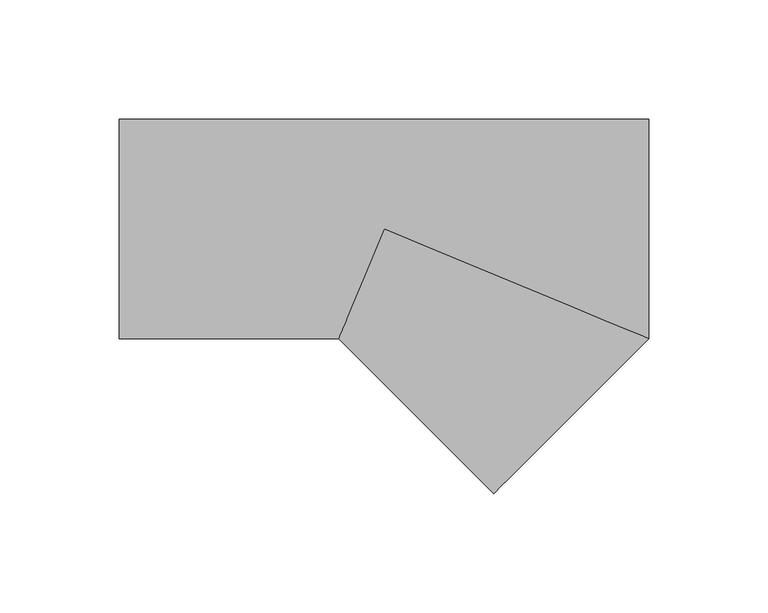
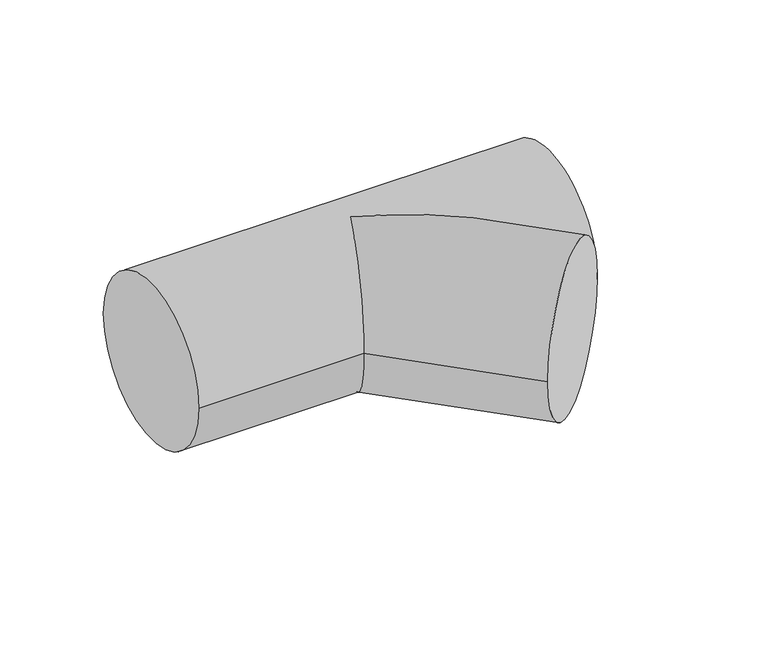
"""IFC4 building model written with IfcOpenShell, lengths in millimetres: pipe fitting geometry, M_Te - Genérica : Estándar."""

import ifcopenshell
import ifcopenshell.guid

model = None  # the IFC model being written
_history = None  # IfcOwnerHistory: only IFC2X3 demands one
_inside = {}  # id of a spatial element -> (the spatial element, [elements in it])
_under = {}  # id of a project, library or spatial element -> (it, [spatial elements below it])
_declared = {}  # id of a project -> (the project, [libraries it declares])
_typed = {}  # id of a type object -> (the type object, [elements of that type])
_made_of = {}  # id of a material, layer set ... -> (it, [elements and type objects made of it])


def new_model(schema):
    """Start an empty IFC model of exactly this schema.

    Asked for "IFC4X3", IfcOpenShell would pick the latest addendum, in which some entities
    have other attributes; the version numbers below select the first issue.
    IFC2X3 requires an IfcOwnerHistory on every rooted entity: one is made here for all.
    """
    global model, _history
    if schema == "IFC4X3":
        model = ifcopenshell.file(schema_version=(4, 3, 0, 0))
    else:
        model = ifcopenshell.file(schema=schema)
    _inside.clear()
    _under.clear()
    _declared.clear()
    _typed.clear()
    _made_of.clear()
    _history = None
    if model.schema == "IFC2X3":
        org = make("IfcOrganization", Name="unknown")
        user = make(
            "IfcPersonAndOrganization",
            ThePerson=make("IfcPerson", FamilyName="unknown"),
            TheOrganization=org,
        )
        app = make(
            "IfcApplication",
            ApplicationDeveloper=org,
            Version="unknown",
            ApplicationFullName="unknown",
            ApplicationIdentifier="unknown",
        )
        _history = make(
            "IfcOwnerHistory",
            OwningUser=user,
            OwningApplication=app,
            ChangeAction="ADDED",
            CreationDate=0,
        )
    return model


def make(cls, **values):
    """One entity of the class cls with the attributes given. An attribute that is None is left unset."""
    return model.create_entity(
        cls, **{name: value for name, value in values.items() if value is not None}
    )


def rooted(cls, **values):
    """An entity with a GlobalId (a new one), such as an element, a storey or a relation."""
    return make(cls, GlobalId=ifcopenshell.guid.new(), OwnerHistory=_history, **values)


def si_unit(unit_type, name, prefix=None):
    """IfcSIUnit, for example si_unit("LENGTHUNIT", "METRE", prefix="MILLI")."""
    return make("IfcSIUnit", UnitType=unit_type, Prefix=prefix, Name=name)


def assignment(units):
    """IfcUnitAssignment: the units of a project."""
    return None if units is None else make("IfcUnitAssignment", Units=units)


def point(xyz):
    """IfcCartesianPoint."""
    return None if xyz is None else make("IfcCartesianPoint", Coordinates=xyz)


def direction(xyz):
    """IfcDirection."""
    return None if xyz is None else make("IfcDirection", DirectionRatios=xyz)


def frame(location, z_axis=None, x_axis=None):
    """IfcAxis2Placement3D, a coordinate frame: its origin and axes. An axis left out is left unset."""
    return make(
        "IfcAxis2Placement3D",
        Location=point(location),
        Axis=direction(z_axis),
        RefDirection=direction(x_axis),
    )


def origin():
    """The frame at (0, 0, 0) with its axes left unset."""
    return frame((0.0, 0.0, 0.0))


def place(relative_to, where):
    """IfcLocalPlacement: puts the frame where relative to a parent placement (None: the world)."""
    return make(
        "IfcLocalPlacement", PlacementRelTo=relative_to, RelativePlacement=where
    )


def context(
    kind, dimensions, precision=None, world=None, true_north=None, identifier=None
):
    """IfcGeometricRepresentationContext, for example the 3D "Model" context."""
    return make(
        "IfcGeometricRepresentationContext",
        ContextIdentifier=identifier,
        ContextType=kind,
        CoordinateSpaceDimension=dimensions,
        Precision=precision,
        WorldCoordinateSystem=world,
        TrueNorth=true_north,
    )


def project(units=None, contexts=None):
    """IfcProject with its units and contexts."""
    return rooted(
        "IfcProject",
        Name="project",
        RepresentationContexts=contexts,
        UnitsInContext=assignment(units),
    )


def spatial(cls, under=None, at=None, **own):
    """A site, building, storey or space (cls), placed at a placement, below another one or the project."""
    s = rooted(cls, ObjectPlacement=at, **own)
    if under is not None:
        _under.setdefault(under.id(), (under, []))[1].append(s)
    return s


def circle_curve(where, radius):
    """IfcCircle in the frame where."""
    return make("IfcCircle", Position=where, Radius=radius)


def ellipse_curve(where, semi_axis1, semi_axis2):
    """IfcEllipse in the frame where."""
    return make(
        "IfcEllipse", Position=where, SemiAxis1=semi_axis1, SemiAxis2=semi_axis2
    )


def shape(context_of_items, identifier, shape_type, items):
    """IfcShapeRepresentation: the items that make up one representation, for example the "Body"."""
    return make(
        "IfcShapeRepresentation",
        ContextOfItems=context_of_items,
        RepresentationIdentifier=identifier,
        RepresentationType=shape_type,
        Items=items,
    )


def source(mapping_origin, context_of_items, identifier, shape_type, items):
    """IfcRepresentationMap: a shape defined once, which mapped items show again and again."""
    return make(
        "IfcRepresentationMap",
        MappingOrigin=mapping_origin,
        MappedRepresentation=shape(context_of_items, identifier, shape_type, items),
    )


def transform(
    local_origin,
    x_axis=None,
    y_axis=None,
    z_axis=None,
    scale=None,
    scale2=None,
    scale3=None,
    uniform=True,
):
    """IfcCartesianTransformationOperator3D, or its non-uniform kind. x_axis, y_axis, z_axis: its Axis1, 2, 3."""
    if uniform:
        return make(
            "IfcCartesianTransformationOperator3D",
            Axis1=direction(x_axis),
            Axis2=direction(y_axis),
            LocalOrigin=point(local_origin),
            Scale=scale,
            Axis3=direction(z_axis),
        )
    return make(
        "IfcCartesianTransformationOperator3DnonUniform",
        Axis1=direction(x_axis),
        Axis2=direction(y_axis),
        LocalOrigin=point(local_origin),
        Scale=scale,
        Axis3=direction(z_axis),
        Scale2=scale2,
        Scale3=scale3,
    )


def mapped(mapping_source, mapping_target):
    """IfcMappedItem: shows the shape of a source again, moved by a transform."""
    return make(
        "IfcMappedItem", MappingSource=mapping_source, MappingTarget=mapping_target
    )


def made_of(thing, what):
    """Note that an element or type object is made of a material, layer set ...; save() writes the relation."""
    if what is not None:
        _made_of.setdefault(what.id(), (what, []))[1].append(thing)
    return thing


def element(
    cls,
    number,
    at=None,
    inside=None,
    cuts=None,
    type_object=None,
    material=None,
    context=None,
    identifier="Body",
    shape_type=None,
    held_by="IfcProductDefinitionShape",
    body=None,
    shapes=None,
    **own,
):
    """One element of the class cls, such as IfcWall. Its Tag is "e" and its number.

    at: its placement. inside: the storey or other place that contains it. cuts: it is an
    opening in that element (IfcRelVoidsElement). A single representation is given by context,
    identifier, shape_type and body (its items); several are given by shapes. held_by: the class
    of the entity that holds the representations. save() writes the other relations.
    """
    e = rooted(cls, Tag="e%d" % number, ObjectPlacement=at, **own)
    if body is not None:
        shapes = [shape(context, identifier, shape_type, body)]
    if shapes is not None:
        e.Representation = make(held_by, Representations=shapes)
    if inside is not None:
        _inside.setdefault(inside.id(), (inside, []))[1].append(e)
    if cuts is not None:
        rooted(
            "IfcRelVoidsElement", RelatingBuildingElement=cuts, RelatedOpeningElement=e
        )
    if type_object is not None:
        _typed.setdefault(type_object.id(), (type_object, []))[1].append(e)
    return made_of(e, material)


def aggregate(whole, parts):
    """IfcRelAggregates: a whole, such as a stair, and the parts it consists of."""
    return rooted("IfcRelAggregates", RelatingObject=whole, RelatedObjects=parts)


def save(model, path):
    """Write the relations noted so far, then the file.

    IfcRelAggregates (storeys below a building ...), IfcRelContainedInSpatialStructure (elements
    in a storey), IfcRelDefinesByType, IfcRelAssociatesMaterial and IfcRelDeclares: one each for
    every whole, place, type object, material and project.
    """
    for whole, parts in _under.values():
        aggregate(whole, parts)
    for where, things in _inside.values():
        rooted(
            "IfcRelContainedInSpatialStructure",
            RelatedElements=things,
            RelatingStructure=where,
        )
    for kind, things in _typed.values():
        rooted("IfcRelDefinesByType", RelatedObjects=things, RelatingType=kind)
    for what, things in _made_of.values():
        rooted("IfcRelAssociatesMaterial", RelatedObjects=things, RelatingMaterial=what)
    for by, libraries in _declared.values():
        rooted("IfcRelDeclares", RelatingContext=by, RelatedDefinitions=libraries)
    model.write(path)


def plane_surface(at):
    """IfcPlane: the flat surface through the origin of the frame at, square to its z axis."""
    return make("IfcPlane", Position=at)


def cylinder_surface(at, radius):
    """IfcCylindricalSurface: all points at the distance radius from the z axis of the frame at."""
    return make("IfcCylindricalSurface", Position=at, Radius=radius)


def advanced_brep(points, edges, surfaces, faces):
    """IfcAdvancedBrep: a solid bounded by faces that lie on surfaces and meet in shared edges.

    An edge is (start, end): straight between two places in points (the first is 0);
    or (start, end, curve); or (start, end, curve, False) where it runs against its curve.
    A face is (place in surfaces, loops), or (place, loops, False) where it looks against
    its surface's normal. A loop lists edges by number (the first is 1), with a minus sign
    where the edge is run from its end to its start. The first loop is the outer one.
    """
    corners = [point(p) for p in points]
    vertices = [make("IfcVertexPoint", VertexGeometry=c) for c in corners]
    made = []
    for start, end, *more in edges:
        made.append(
            make(
                "IfcEdgeCurve",
                EdgeStart=vertices[start],
                EdgeEnd=vertices[end],
                EdgeGeometry=more[0] if more else make("IfcPolyline", Points=[corners[start], corners[end]]),
                SameSense=more[1] if len(more) > 1 else True,
            )
        )
    hull = []
    for where, loops, *sense in faces:
        bounds = []
        for j, loop in enumerate(loops):
            ring = [make("IfcOrientedEdge", EdgeElement=made[abs(k) - 1], Orientation=k > 0) for k in loop]
            bounds.append(
                make(
                    "IfcFaceOuterBound" if j == 0 else "IfcFaceBound",
                    Bound=make("IfcEdgeLoop", EdgeList=ring),
                    Orientation=True,
                )
            )
        hull.append(make("IfcAdvancedFace", Bounds=bounds, FaceSurface=surfaces[where], SameSense=sense[0] if sense else True))
    return make("IfcAdvancedBrep", Outer=make("IfcClosedShell", CfsFaces=hull))


def pipe_fitting_872c9969(model_context):
    return source(origin(), model_context, "Body", "AdvancedBrep", [
        advanced_brep(
        [(-111.1508304, -46.0375, 0.0), (-111.1508304, 46.0375, 0.0), (111.1508304, -46.0375, 0.0), (111.1508304, 46.0375, 0.0), (-19.0682463, -46.0375, 0.0), (0.0, 0.0, 46.0375), (0.0, 0.0, -46.0375), (46.0466548, -111.1470381, 0.0)],
        [
            (0, 1, circle_curve(frame((-111.1508304, 0.0, 0.0), z_axis=(-1.0, 0.0, 0.0), x_axis=(0.0, 1.0, 0.0)), 46.0375)),
            (1, 0, circle_curve(frame((-111.1508304, 0.0, 0.0), z_axis=(-1.0, 0.0, 0.0), x_axis=(0.0, 1.0, 0.0)), 46.0375)),
            (2, 3, circle_curve(frame((111.1508304, 0.0, 0.0), z_axis=(1.0, 0.0, 0.0), x_axis=(0.0, 1.0, 0.0)), 46.0375)),
            (3, 2, circle_curve(frame((111.1508304, 0.0, 0.0), z_axis=(1.0, 0.0, 0.0), x_axis=(0.0, 1.0, 0.0)), 46.0375)),
            (0, 4),
            (4, 5, ellipse_curve(frame((0.0, 0.0, 0.0), z_axis=(-0.9238874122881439, 0.3826644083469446, 0.0), x_axis=(-0.38266440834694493, -0.9238874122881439, 0.0)), 49.8302059, 46.0375)),
            (5, 2, ellipse_curve(frame((0.0, 0.0, 0.0), z_axis=(0.3826644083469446, 0.923887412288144, 0.0), x_axis=(-0.9238874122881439, 0.38266440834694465, 0.0)), 120.3077657, 46.0375)),
            (3, 1),
            (2, 6, ellipse_curve(frame((0.0, 0.0, 0.0), z_axis=(0.3826644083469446, 0.923887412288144, 0.0), x_axis=(-0.9238874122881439, 0.38266440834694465, 0.0)), 120.3077657, 46.0375)),
            (6, 4, ellipse_curve(frame((0.0, 0.0, 0.0), z_axis=(-0.9238874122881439, 0.3826644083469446, 0.0), x_axis=(-0.38266440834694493, -0.9238874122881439, 0.0)), 49.8302059, 46.0375)),
            (7, 2, circle_curve(frame((78.5987426, -78.5922691, 0.0), z_axis=(0.707135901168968, -0.7070776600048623, 0.0), x_axis=(0.7070776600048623, 0.707135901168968, 0.0)), 46.0375)),
            (2, 7, circle_curve(frame((78.5987426, -78.5922691, 0.0), z_axis=(0.707135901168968, -0.7070776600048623, 0.0), x_axis=(0.7070776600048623, 0.707135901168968, 0.0)), 46.0375)),
            (4, 7),
        ],
        [
            plane_surface(frame((-111.1508304, 0.0, 0.0), z_axis=(-1.0, 0.0, 0.0), x_axis=(0.0, 0.0, 1.0))),
            plane_surface(frame((111.1508304, 0.0, 0.0), z_axis=(1.0, 0.0, 0.0), x_axis=(0.0, 0.0, 1.0))),
            cylinder_surface(frame((-111.1508304, 0.0, 0.0), z_axis=(-1.0, 0.0, 0.0), x_axis=(0.0, 1.0, 0.0)), 46.0375),
            plane_surface(frame((78.5987426, -78.5922691, 0.0), z_axis=(0.707135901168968, -0.7070776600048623, 0.0), x_axis=(0.0, 0.0, 1.0))),
            cylinder_surface(frame((0.0, 0.0, 0.0), z_axis=(-0.707135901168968, 0.7070776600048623, 0.0), x_axis=(0.7070776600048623, 0.707135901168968, 0.0)), 46.0375),
        ],
        [
            (0, [[1, 2]]),
            (1, [[3, 4]]),
            (2, [[-1, 5, 6, 7, -4, 8]]),
            (2, [[-2, -8, -3, 9, 10, -5]]),
            (3, [[11, 12]]),
            (4, [[-12, -7, -6, 13]]),
            (4, [[-11, -13, -10, -9]]),
        ],
    ),
    ])


if __name__ == "__main__":
    model = new_model("IFC4")
    model_context = context("Model", 3, world=origin())
    ifc_project = project(units=[si_unit("LENGTHUNIT", "METRE", prefix="MILLI")], contexts=[model_context])
    site = spatial("IfcSite", under=ifc_project)
    building = spatial("IfcBuilding", under=site)
    placement = place(None, origin())
    pipe_fitting_shape = pipe_fitting_872c9969(model_context)
    element("IfcPipeFitting", 1, ObjectType="M_Te - Genérica : Estándar", at=placement, inside=building, context=model_context, shape_type="MappedRepresentation", body=[
        mapped(pipe_fitting_shape, transform((0.0, 0.0, 0.0), x_axis=(1.0, 0.0, 0.0), y_axis=(0.0, 1.0, 0.0), z_axis=(0.0, 0.0, 1.0))),
    ])
    save(model, "model.ifc")
